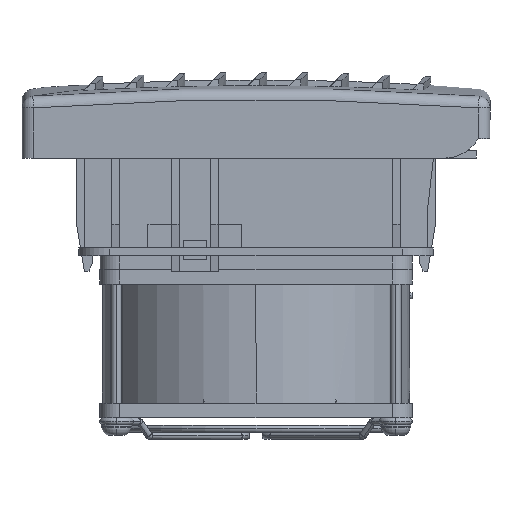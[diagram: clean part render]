
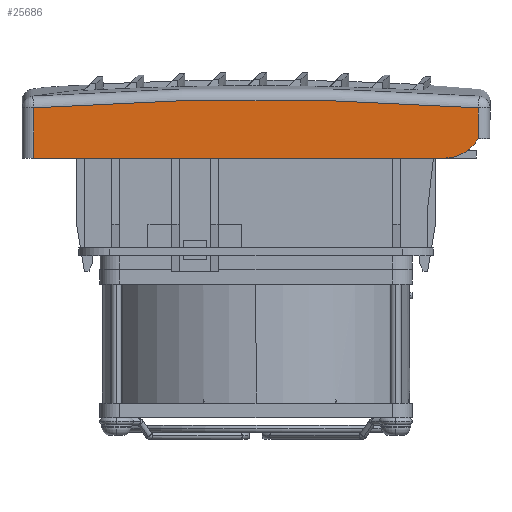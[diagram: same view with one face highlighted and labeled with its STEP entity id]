
A CAD part, left-side view. The second image highlights one B-rep face of the part: STEP entity #25686.
In plain terms, the highlighted planar face has unit normal (-1, 0, 0).
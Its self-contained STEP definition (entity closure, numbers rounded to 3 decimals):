
#1331 = DIRECTION ( 'NONE',  ( 0., 0., 1. ) ) ;
#1377 = VECTOR ( 'NONE', #26436, 1000. ) ;
#3262 = ORIENTED_EDGE ( 'NONE', *, *, #36599, .T. ) ;
#5291 = VERTEX_POINT ( 'NONE', #21108 ) ;
#5476 = CARTESIAN_POINT ( 'NONE',  ( -14., 11., 0. ) ) ;
#6234 = CARTESIAN_POINT ( 'NONE',  ( -14., 11., 20. ) ) ;
#6583 = CARTESIAN_POINT ( 'NONE',  ( -14., 14., 20. ) ) ;
#7190 = LINE ( 'NONE', #35471, #25137 ) ;
#8023 = ORIENTED_EDGE ( 'NONE', *, *, #34289, .T. ) ;
#9848 = CIRCLE ( 'NONE', #15504, 10. ) ;
#9970 = DIRECTION ( 'NONE',  ( 0., 1., 0. ) ) ;
#10283 = CARTESIAN_POINT ( 'NONE',  ( -14., -46., -780. ) ) ;
#13664 = DIRECTION ( 'NONE',  ( 0., 1., 0. ) ) ;
#14334 = ORIENTED_EDGE ( 'NONE', *, *, #27506, .T. ) ;
#14845 = CARTESIAN_POINT ( 'NONE',  ( -14., -94.34, 10. ) ) ;
#15504 = AXIS2_PLACEMENT_3D ( 'NONE', #14845, #38514, #18243 ) ;
#18243 = DIRECTION ( 'NONE',  ( 0., 1., 0. ) ) ;
#20224 = AXIS2_PLACEMENT_3D ( 'NONE', #6583, #30189, #9970 ) ;
#20360 = VERTEX_POINT ( 'NONE', #22991 ) ;
#21108 = CARTESIAN_POINT ( 'NONE',  ( -14., -94.34, 0. ) ) ;
#21161 = ORIENTED_EDGE ( 'NONE', *, *, #25216, .T. ) ;
#21553 = CARTESIAN_POINT ( 'NONE',  ( -14., -103., 20. ) ) ;
#22060 = LINE ( 'NONE', #21553, #40167 ) ;
#22551 = CARTESIAN_POINT ( 'NONE',  ( -14., -103., 12.913 ) ) ;
#22633 = VERTEX_POINT ( 'NONE', #27676 ) ;
#22991 = CARTESIAN_POINT ( 'NONE',  ( -14., -103., 5. ) ) ;
#25137 = VECTOR ( 'NONE', #28668, 1000. ) ;
#25216 = EDGE_CURVE ( 'NONE', #39124, #22633, #27767, .T. ) ;
#25686 = ADVANCED_FACE ( 'NONE', ( #27163 ), #30055, .F. ) ;
#26436 = DIRECTION ( 'NONE',  ( 0., 0., -1. ) ) ;
#27163 = FACE_OUTER_BOUND ( 'NONE', #27470, .T. ) ;
#27470 = EDGE_LOOP ( 'NONE', ( #8023, #14334, #3262, #21161, #36625 ) ) ;
#27506 = EDGE_CURVE ( 'NONE', #5291, #20360, #9848, .T. ) ;
#27676 = CARTESIAN_POINT ( 'NONE',  ( -14., 11., 12.913 ) ) ;
#27767 = CIRCLE ( 'NONE', #40922, 794.959 ) ;
#28668 = DIRECTION ( 'NONE',  ( 0., -1., 0. ) ) ;
#30055 = PLANE ( 'NONE',  #20224 ) ;
#30189 = DIRECTION ( 'NONE',  ( 1., 0., 0. ) ) ;
#30734 = VERTEX_POINT ( 'NONE', #5476 ) ;
#33899 = DIRECTION ( 'NONE',  ( -1., 0., 0. ) ) ;
#34289 = EDGE_CURVE ( 'NONE', #30734, #5291, #7190, .T. ) ;
#35471 = CARTESIAN_POINT ( 'NONE',  ( -14., 14., 0. ) ) ;
#36599 = EDGE_CURVE ( 'NONE', #20360, #39124, #22060, .T. ) ;
#36625 = ORIENTED_EDGE ( 'NONE', *, *, #38584, .T. ) ;
#38455 = LINE ( 'NONE', #6234, #1377 ) ;
#38514 = DIRECTION ( 'NONE',  ( -1., 0., 0. ) ) ;
#38584 = EDGE_CURVE ( 'NONE', #22633, #30734, #38455, .T. ) ;
#39124 = VERTEX_POINT ( 'NONE', #22551 ) ;
#40167 = VECTOR ( 'NONE', #1331, 1000. ) ;
#40922 = AXIS2_PLACEMENT_3D ( 'NONE', #10283, #33899, #13664 ) ;
